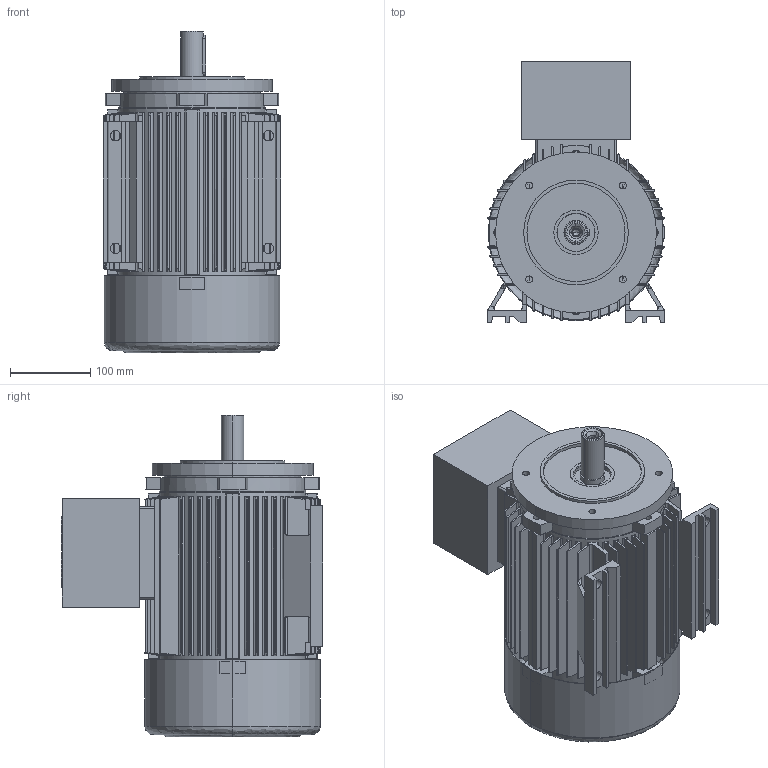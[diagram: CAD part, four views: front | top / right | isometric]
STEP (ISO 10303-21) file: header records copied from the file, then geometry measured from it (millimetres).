
FILE_DESCRIPTION (( 'STEP AP214' ), '1' );
FILE_NAME ('20.18394-G 5AT 112 B34_F165 Exd STANDK.STEP', '2018-11-15T08:58:41', ( '' ), ( '' ), 'SwSTEP 2.0', 'SolidWorks 2018', '' );
FILE_SCHEMA (( 'AUTOMOTIVE_DESIGN' ));
Length unit declared in the file: millimetre
Products named in the file (1): 20.18394-G 5AT 112 B34_F165 Exd STANDK
Bounding box: 220 x 325 x 399.8 mm (x, y, z)
Volume: 6025857.1 mm3; surface area: 1123658.9 mm2
Topology: 4 solids, 5 shells, 804 faces, 2109 edges, 1377 vertices
Faces by surface type: cylinder 353, plane 317, cone 120, bspline 14
Entity records: 35489 total; most frequent: CARTESIAN_POINT 9138, ORIENTED_EDGE 4170, DIRECTION 3776, EDGE_CURVE 2085, AXIS2_PLACEMENT_3D 1390, VERTEX_POINT 1377, LINE 996, VECTOR 996
